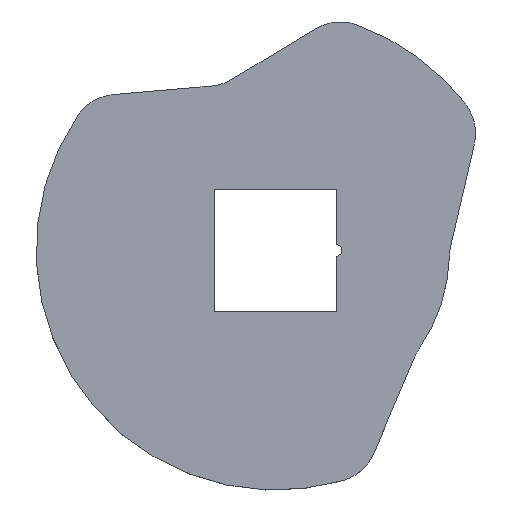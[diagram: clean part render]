
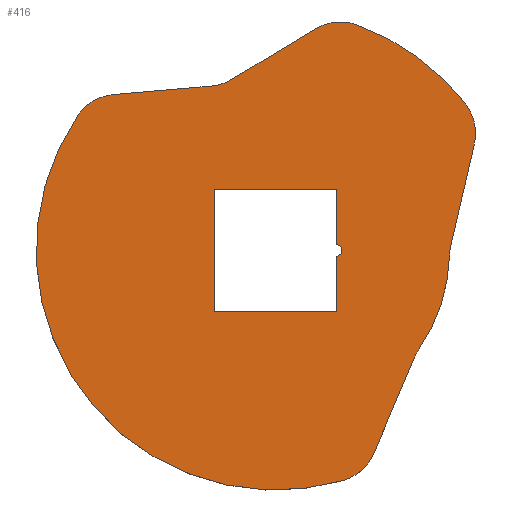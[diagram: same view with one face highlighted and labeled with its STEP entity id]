
A CAD part, top view. The second image highlights one B-rep face of the part: STEP entity #416.
In plain terms, the highlighted planar face has unit normal (0, 0, 1).
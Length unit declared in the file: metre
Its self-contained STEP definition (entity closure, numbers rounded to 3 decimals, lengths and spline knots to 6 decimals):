
#12=CIRCLE('',#438,0.004);
#14=CIRCLE('',#441,0.0145);
#16=CIRCLE('',#444,0.004);
#18=CIRCLE('',#448,0.004);
#20=CIRCLE('',#451,0.02);
#22=CIRCLE('',#454,0.004);
#24=CIRCLE('',#458,0.004);
#26=CIRCLE('',#462,0.004);
#28=CIRCLE('',#465,0.02);
#30=CIRCLE('',#468,0.004);
#33=CIRCLE('',#473,0.0005);
#125=ORIENTED_EDGE('',*,*,#216,.F.);
#126=ORIENTED_EDGE('',*,*,#168,.T.);
#127=ORIENTED_EDGE('',*,*,#217,.F.);
#128=ORIENTED_EDGE('',*,*,#218,.F.);
#129=ORIENTED_EDGE('',*,*,#219,.T.);
#130=ORIENTED_EDGE('',*,*,#220,.T.);
#131=ORIENTED_EDGE('',*,*,#169,.F.);
#132=ORIENTED_EDGE('',*,*,#173,.F.);
#133=ORIENTED_EDGE('',*,*,#176,.T.);
#134=ORIENTED_EDGE('',*,*,#179,.F.);
#135=ORIENTED_EDGE('',*,*,#182,.F.);
#136=ORIENTED_EDGE('',*,*,#185,.T.);
#137=ORIENTED_EDGE('',*,*,#188,.T.);
#138=ORIENTED_EDGE('',*,*,#191,.T.);
#139=ORIENTED_EDGE('',*,*,#194,.F.);
#140=ORIENTED_EDGE('',*,*,#197,.F.);
#141=ORIENTED_EDGE('',*,*,#200,.F.);
#142=ORIENTED_EDGE('',*,*,#203,.T.);
#143=ORIENTED_EDGE('',*,*,#206,.T.);
#144=ORIENTED_EDGE('',*,*,#209,.T.);
#168=EDGE_CURVE('',#226,#228,#268,.T.);
#169=EDGE_CURVE('',#229,#230,#269,.T.);
#173=EDGE_CURVE('',#233,#229,#12,.T.);
#176=EDGE_CURVE('',#233,#235,#14,.T.);
#179=EDGE_CURVE('',#237,#235,#16,.T.);
#182=EDGE_CURVE('',#239,#237,#276,.T.);
#185=EDGE_CURVE('',#239,#241,#18,.T.);
#188=EDGE_CURVE('',#241,#243,#20,.T.);
#191=EDGE_CURVE('',#243,#245,#22,.T.);
#194=EDGE_CURVE('',#247,#245,#282,.T.);
#197=EDGE_CURVE('',#249,#247,#24,.T.);
#200=EDGE_CURVE('',#251,#249,#286,.T.);
#203=EDGE_CURVE('',#251,#253,#26,.T.);
#206=EDGE_CURVE('',#253,#255,#28,.T.);
#209=EDGE_CURVE('',#255,#230,#30,.T.);
#216=EDGE_CURVE('',#226,#261,#33,.T.);
#217=EDGE_CURVE('',#262,#228,#295,.T.);
#218=EDGE_CURVE('',#263,#262,#296,.T.);
#219=EDGE_CURVE('',#263,#264,#297,.T.);
#220=EDGE_CURVE('',#264,#261,#298,.T.);
#226=VERTEX_POINT('',#611);
#228=VERTEX_POINT('',#615);
#229=VERTEX_POINT('',#619);
#230=VERTEX_POINT('',#620);
#233=VERTEX_POINT('',#628);
#235=VERTEX_POINT('',#634);
#237=VERTEX_POINT('',#640);
#239=VERTEX_POINT('',#646);
#241=VERTEX_POINT('',#652);
#243=VERTEX_POINT('',#658);
#245=VERTEX_POINT('',#664);
#247=VERTEX_POINT('',#670);
#249=VERTEX_POINT('',#676);
#251=VERTEX_POINT('',#682);
#253=VERTEX_POINT('',#688);
#255=VERTEX_POINT('',#694);
#261=VERTEX_POINT('',#713);
#262=VERTEX_POINT('',#715);
#263=VERTEX_POINT('',#717);
#264=VERTEX_POINT('',#719);
#268=LINE('',#616,#306);
#269=LINE('',#618,#307);
#276=LINE('',#645,#314);
#282=LINE('',#669,#320);
#286=LINE('',#681,#324);
#295=LINE('',#714,#333);
#296=LINE('',#716,#334);
#297=LINE('',#718,#335);
#298=LINE('',#720,#336);
#306=VECTOR('',#486,1.);
#307=VECTOR('',#489,1.);
#314=VECTOR('',#516,1.);
#320=VECTOR('',#542,1.);
#324=VECTOR('',#554,1.);
#333=VECTOR('',#589,1.);
#334=VECTOR('',#590,1.);
#335=VECTOR('',#591,1.);
#336=VECTOR('',#592,1.);
#358=EDGE_LOOP('',(#125,#126,#127,#128,#129,#130));
#359=EDGE_LOOP('',(#131,#132,#133,#134,#135,#136,#137,#138,#139,#140,#141,
#142,#143,#144));
#382=FACE_BOUND('',#358,.T.);
#383=FACE_BOUND('',#359,.T.);
#395=PLANE('',#472);
#416=ADVANCED_FACE('',(#382,#383),#395,.T.);
#438=AXIS2_PLACEMENT_3D('',#627,#495,#496);
#441=AXIS2_PLACEMENT_3D('',#633,#502,#503);
#444=AXIS2_PLACEMENT_3D('',#639,#509,#510);
#448=AXIS2_PLACEMENT_3D('',#651,#521,#522);
#451=AXIS2_PLACEMENT_3D('',#657,#528,#529);
#454=AXIS2_PLACEMENT_3D('',#663,#535,#536);
#458=AXIS2_PLACEMENT_3D('',#675,#547,#548);
#462=AXIS2_PLACEMENT_3D('',#687,#559,#560);
#465=AXIS2_PLACEMENT_3D('',#693,#566,#567);
#468=AXIS2_PLACEMENT_3D('',#699,#573,#574);
#472=AXIS2_PLACEMENT_3D('',#711,#585,#586);
#473=AXIS2_PLACEMENT_3D('',#712,#587,#588);
#486=DIRECTION('',(0.,-1.,0.));
#489=DIRECTION('',(-0.39,-0.921,0.));
#495=DIRECTION('',(0.,0.,1.));
#496=DIRECTION('',(1.,0.,0.));
#502=DIRECTION('',(0.,0.,1.));
#503=DIRECTION('',(1.,0.,0.));
#509=DIRECTION('',(0.,0.,1.));
#510=DIRECTION('',(1.,0.,0.));
#516=DIRECTION('',(-0.226,-0.974,0.));
#521=DIRECTION('',(0.,0.,1.));
#522=DIRECTION('',(1.,0.,0.));
#528=DIRECTION('',(0.,0.,1.));
#529=DIRECTION('',(1.,0.,0.));
#535=DIRECTION('',(0.,0.,1.));
#536=DIRECTION('',(1.,0.,0.));
#542=DIRECTION('',(0.857,0.516,0.));
#547=DIRECTION('',(0.,0.,1.));
#548=DIRECTION('',(1.,0.,0.));
#554=DIRECTION('',(0.996,0.086,0.));
#559=DIRECTION('',(0.,0.,1.));
#560=DIRECTION('',(1.,0.,0.));
#566=DIRECTION('',(0.,0.,1.));
#567=DIRECTION('',(1.,0.,0.));
#573=DIRECTION('',(0.,0.,1.));
#574=DIRECTION('',(1.,0.,0.));
#585=DIRECTION('',(0.,0.,1.));
#586=DIRECTION('',(1.,0.,0.));
#587=DIRECTION('',(0.,0.,1.));
#588=DIRECTION('',(1.,0.,0.));
#589=DIRECTION('',(1.,0.,0.));
#590=DIRECTION('',(0.,-1.,0.));
#591=DIRECTION('',(1.,0.,0.));
#592=DIRECTION('',(0.,-1.,0.));
#611=CARTESIAN_POINT('',(0.0051,-0.00049,0.0019));
#615=CARTESIAN_POINT('',(0.0051,-0.0051,0.0019));
#616=CARTESIAN_POINT('',(0.0051,0.,0.0019));
#618=CARTESIAN_POINT('',(0.009873,-0.012916,0.0019));
#619=CARTESIAN_POINT('',(0.011563,-0.008919,0.0019));
#620=CARTESIAN_POINT('',(0.008182,-0.016913,0.0019));
#627=CARTESIAN_POINT('',(0.015247,-0.010477,0.0019));
#628=CARTESIAN_POINT('',(0.01195,-0.008212,0.0019));
#633=CARTESIAN_POINT('',(0.,0.,0.0019));
#634=CARTESIAN_POINT('',(0.014495,-0.000381,0.0019));
#639=CARTESIAN_POINT('',(0.018494,-0.000486,0.0019));
#640=CARTESIAN_POINT('',(0.014597,0.000419,0.0019));
#645=CARTESIAN_POINT('',(0.015579,0.004646,0.0019));
#646=CARTESIAN_POINT('',(0.016561,0.008874,0.0019));
#651=CARTESIAN_POINT('',(0.012664,0.009778,0.0019));
#652=CARTESIAN_POINT('',(0.01583,0.012223,0.0019));
#657=CARTESIAN_POINT('',(0.,0.,0.0019));
#658=CARTESIAN_POINT('',(0.006733,0.018833,0.0019));
#663=CARTESIAN_POINT('',(0.005386,0.015066,0.0019));
#664=CARTESIAN_POINT('',(0.003322,0.018492,0.0019));
#669=CARTESIAN_POINT('',(-0.000182,0.016381,0.0019));
#670=CARTESIAN_POINT('',(-0.003685,0.01427,0.0019));
#675=CARTESIAN_POINT('',(-0.00575,0.017696,0.0019));
#676=CARTESIAN_POINT('',(-0.005406,0.013711,0.0019));
#681=CARTESIAN_POINT('',(-0.009482,0.013359,0.0019));
#682=CARTESIAN_POINT('',(-0.013557,0.013008,0.0019));
#687=CARTESIAN_POINT('',(-0.013213,0.009023,0.0019));
#688=CARTESIAN_POINT('',(-0.016517,0.011278,0.0019));
#693=CARTESIAN_POINT('',(0.,0.,0.0019));
#694=CARTESIAN_POINT('',(0.005622,-0.019193,0.0019));
#699=CARTESIAN_POINT('',(0.004498,-0.015355,0.0019));
#711=CARTESIAN_POINT('',(0.,0.,0.0019));
#712=CARTESIAN_POINT('',(0.005,0.,0.0019));
#713=CARTESIAN_POINT('',(0.0051,0.00049,0.0019));
#714=CARTESIAN_POINT('',(0.,-0.0051,0.0019));
#715=CARTESIAN_POINT('',(-0.0051,-0.0051,0.0019));
#716=CARTESIAN_POINT('',(-0.0051,0.,0.0019));
#717=CARTESIAN_POINT('',(-0.0051,0.0051,0.0019));
#718=CARTESIAN_POINT('',(0.,0.0051,0.0019));
#719=CARTESIAN_POINT('',(0.0051,0.0051,0.0019));
#720=CARTESIAN_POINT('',(0.0051,0.,0.0019));
